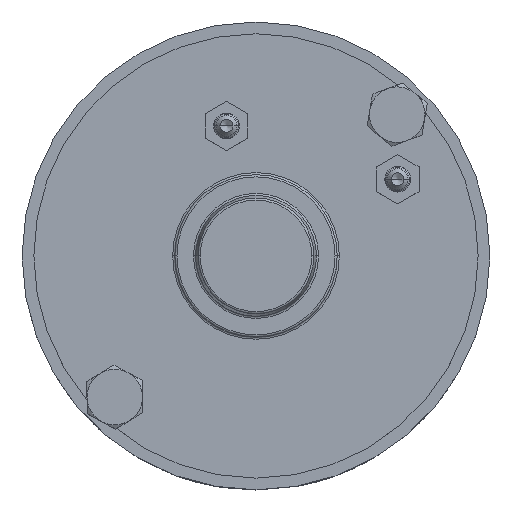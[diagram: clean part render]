
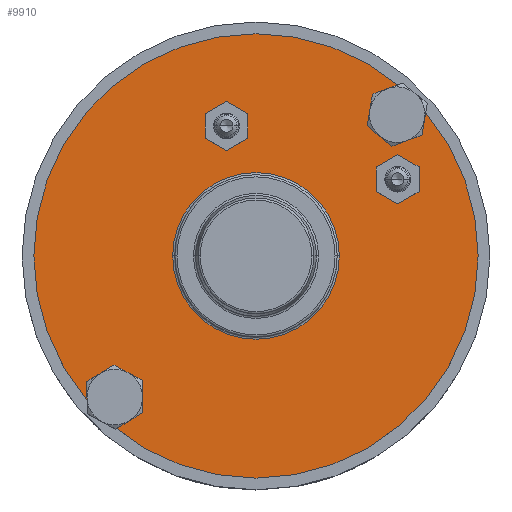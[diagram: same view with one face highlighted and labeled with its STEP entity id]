
A CAD part, top view. The second image highlights one B-rep face of the part: STEP entity #9910.
In plain terms, the highlighted planar face has unit normal (0, 0, 1).
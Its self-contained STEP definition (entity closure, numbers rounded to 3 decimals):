
#690 = EDGE_LOOP ( 'NONE', ( #38038, #37123 ) ) ;
#725 = CARTESIAN_POINT ( 'NONE',  ( 33.057, 33.057, 164.5 ) ) ;
#991 = EDGE_CURVE ( 'NONE', #3458, #30640, #27298, .T. ) ;
#1045 = DIRECTION ( 'NONE',  ( 1., 0., 0. ) ) ;
#1107 = CARTESIAN_POINT ( 'NONE',  ( -33.057, -33.057, 164.5 ) ) ;
#1561 = CARTESIAN_POINT ( 'NONE',  ( -35.807, -33.057, 164.5 ) ) ;
#3113 = CARTESIAN_POINT ( 'NONE',  ( -30.307, -33.057, 164.5 ) ) ;
#3458 = VERTEX_POINT ( 'NONE', #4721 ) ;
#3696 = CIRCLE ( 'NONE', #30399, 2.75 ) ;
#3883 = DIRECTION ( 'NONE',  ( 1., 0., 0. ) ) ;
#4221 = DIRECTION ( 'NONE',  ( -1., 0., 0. ) ) ;
#4553 = CARTESIAN_POINT ( 'NONE',  ( 19.5, 0., 164.5 ) ) ;
#4721 = CARTESIAN_POINT ( 'NONE',  ( -10.892, 30.406, 164.5 ) ) ;
#4879 = DIRECTION ( 'NONE',  ( 0., 0., 1. ) ) ;
#5115 = ORIENTED_EDGE ( 'NONE', *, *, #12794, .F. ) ;
#5210 = CIRCLE ( 'NONE', #39262, 19.5 ) ;
#5512 = EDGE_CURVE ( 'NONE', #36131, #5954, #31048, .T. ) ;
#5954 = VERTEX_POINT ( 'NONE', #30359 ) ;
#6628 = DIRECTION ( 'NONE',  ( 0., 0., 1. ) ) ;
#7194 = CARTESIAN_POINT ( 'NONE',  ( -6.892, 30.406, 164.5 ) ) ;
#7466 = CARTESIAN_POINT ( 'NONE',  ( 0., 0., 164.5 ) ) ;
#7655 = EDGE_CURVE ( 'NONE', #26773, #16235, #5210, .T. ) ;
#7764 = CARTESIAN_POINT ( 'NONE',  ( 30.307, 33.057, 164.5 ) ) ;
#8470 = FACE_OUTER_BOUND ( 'NONE', #32131, .T. ) ;
#9195 = CARTESIAN_POINT ( 'NONE',  ( 33.158, 17.926, 164.5 ) ) ;
#9525 = ORIENTED_EDGE ( 'NONE', *, *, #7655, .T. ) ;
#9910 = ADVANCED_FACE ( 'NONE', ( #25280, #10505, #34601, #33610, #16941, #8470 ), #35550, .T. ) ;
#10166 = CARTESIAN_POINT ( 'NONE',  ( 33.057, 33.057, 164.5 ) ) ;
#10224 = DIRECTION ( 'NONE',  ( 0., 0., 1. ) ) ;
#10414 = DIRECTION ( 'NONE',  ( 1., 0., 0. ) ) ;
#10505 = FACE_BOUND ( 'NONE', #690, .T. ) ;
#10646 = AXIS2_PLACEMENT_3D ( 'NONE', #16781, #19934, #1045 ) ;
#10673 = DIRECTION ( 'NONE',  ( 1., 0., 0. ) ) ;
#10993 = EDGE_CURVE ( 'NONE', #37207, #29059, #23145, .T. ) ;
#11373 = DIRECTION ( 'NONE',  ( 0., 0., -1. ) ) ;
#11711 = EDGE_LOOP ( 'NONE', ( #19254, #25969 ) ) ;
#11795 = CARTESIAN_POINT ( 'NONE',  ( 33.158, 17.926, 164.5 ) ) ;
#11940 = CARTESIAN_POINT ( 'NONE',  ( 29.158, 17.926, 164.5 ) ) ;
#12011 = AXIS2_PLACEMENT_3D ( 'NONE', #25560, #6628, #28703 ) ;
#12147 = CIRCLE ( 'NONE', #12011, 2.75 ) ;
#12248 = EDGE_CURVE ( 'NONE', #14757, #20912, #12147, .T. ) ;
#12383 = DIRECTION ( 'NONE',  ( 1., 0., 0. ) ) ;
#12556 = CIRCLE ( 'NONE', #19136, 4. ) ;
#12794 = EDGE_CURVE ( 'NONE', #29059, #37207, #15074, .T. ) ;
#13324 = DIRECTION ( 'NONE',  ( 1., 0., 0. ) ) ;
#13908 = CIRCLE ( 'NONE', #22518, 4. ) ;
#13942 = EDGE_CURVE ( 'NONE', #16235, #26773, #33219, .T. ) ;
#14757 = VERTEX_POINT ( 'NONE', #3113 ) ;
#14973 = DIRECTION ( 'NONE',  ( 1., 0., 0. ) ) ;
#15074 = CIRCLE ( 'NONE', #38613, 2.75 ) ;
#15689 = ORIENTED_EDGE ( 'NONE', *, *, #21476, .F. ) ;
#16235 = VERTEX_POINT ( 'NONE', #19288 ) ;
#16485 = CIRCLE ( 'NONE', #16753, 52. ) ;
#16753 = AXIS2_PLACEMENT_3D ( 'NONE', #36313, #17542, #39477 ) ;
#16781 = CARTESIAN_POINT ( 'NONE',  ( 0., 0., 164.5 ) ) ;
#16941 = FACE_BOUND ( 'NONE', #34641, .T. ) ;
#17542 = DIRECTION ( 'NONE',  ( 0., 0., 1. ) ) ;
#18228 = ORIENTED_EDGE ( 'NONE', *, *, #23582, .T. ) ;
#18319 = CARTESIAN_POINT ( 'NONE',  ( 52., 0., 164.5 ) ) ;
#19136 = AXIS2_PLACEMENT_3D ( 'NONE', #11795, #33799, #14973 ) ;
#19254 = ORIENTED_EDGE ( 'NONE', *, *, #22999, .F. ) ;
#19257 = ORIENTED_EDGE ( 'NONE', *, *, #39942, .T. ) ;
#19288 = CARTESIAN_POINT ( 'NONE',  ( -19.5, 0., 164.5 ) ) ;
#19539 = EDGE_LOOP ( 'NONE', ( #33511, #5115 ) ) ;
#19934 = DIRECTION ( 'NONE',  ( 0., 0., 1. ) ) ;
#20601 = CIRCLE ( 'NONE', #22417, 52. ) ;
#20912 = VERTEX_POINT ( 'NONE', #1561 ) ;
#21476 = EDGE_CURVE ( 'NONE', #20912, #14757, #3696, .T. ) ;
#21727 = EDGE_CURVE ( 'NONE', #5954, #36131, #12556, .T. ) ;
#21788 = CARTESIAN_POINT ( 'NONE',  ( 35.807, 33.057, 164.5 ) ) ;
#22417 = AXIS2_PLACEMENT_3D ( 'NONE', #29076, #10224, #32220 ) ;
#22431 = AXIS2_PLACEMENT_3D ( 'NONE', #23806, #4879, #26945 ) ;
#22518 = AXIS2_PLACEMENT_3D ( 'NONE', #7194, #29247, #10414 ) ;
#22786 = DIRECTION ( 'NONE',  ( 0., 0., 1. ) ) ;
#22999 = EDGE_CURVE ( 'NONE', #30640, #3458, #13908, .T. ) ;
#23145 = CIRCLE ( 'NONE', #30685, 2.75 ) ;
#23168 = DIRECTION ( 'NONE',  ( 0., 0., 1. ) ) ;
#23582 = EDGE_CURVE ( 'NONE', #27513, #32242, #16485, .T. ) ;
#23806 = CARTESIAN_POINT ( 'NONE',  ( -6.892, 30.406, 164.5 ) ) ;
#25280 = FACE_BOUND ( 'NONE', #11711, .T. ) ;
#25560 = CARTESIAN_POINT ( 'NONE',  ( -33.057, -33.057, 164.5 ) ) ;
#25844 = AXIS2_PLACEMENT_3D ( 'NONE', #9195, #31215, #12383 ) ;
#25969 = ORIENTED_EDGE ( 'NONE', *, *, #991, .F. ) ;
#26773 = VERTEX_POINT ( 'NONE', #4553 ) ;
#26945 = DIRECTION ( 'NONE',  ( 1., 0., 0. ) ) ;
#27298 = CIRCLE ( 'NONE', #22431, 4. ) ;
#27513 = VERTEX_POINT ( 'NONE', #18319 ) ;
#27694 = CARTESIAN_POINT ( 'NONE',  ( -52., 0., 164.5 ) ) ;
#28066 = ORIENTED_EDGE ( 'NONE', *, *, #12248, .F. ) ;
#28703 = DIRECTION ( 'NONE',  ( -1., 0., 0. ) ) ;
#29059 = VERTEX_POINT ( 'NONE', #7764 ) ;
#29076 = CARTESIAN_POINT ( 'NONE',  ( 0., 0., 164.5 ) ) ;
#29247 = DIRECTION ( 'NONE',  ( 0., 0., 1. ) ) ;
#29518 = DIRECTION ( 'NONE',  ( 0., 0., -1. ) ) ;
#30199 = CARTESIAN_POINT ( 'NONE',  ( 0., 0., 164.5 ) ) ;
#30359 = CARTESIAN_POINT ( 'NONE',  ( 37.158, 17.926, 164.5 ) ) ;
#30399 = AXIS2_PLACEMENT_3D ( 'NONE', #1107, #23168, #4221 ) ;
#30640 = VERTEX_POINT ( 'NONE', #35666 ) ;
#30685 = AXIS2_PLACEMENT_3D ( 'NONE', #10166, #32165, #13324 ) ;
#31048 = CIRCLE ( 'NONE', #25844, 4. ) ;
#31215 = DIRECTION ( 'NONE',  ( 0., 0., 1. ) ) ;
#32131 = EDGE_LOOP ( 'NONE', ( #19257, #18228 ) ) ;
#32165 = DIRECTION ( 'NONE',  ( 0., 0., 1. ) ) ;
#32220 = DIRECTION ( 'NONE',  ( 1., 0., 0. ) ) ;
#32242 = VERTEX_POINT ( 'NONE', #27694 ) ;
#33219 = CIRCLE ( 'NONE', #36779, 19.5 ) ;
#33369 = DIRECTION ( 'NONE',  ( 1., 0., 0. ) ) ;
#33511 = ORIENTED_EDGE ( 'NONE', *, *, #10993, .F. ) ;
#33610 = FACE_BOUND ( 'NONE', #19539, .T. ) ;
#33799 = DIRECTION ( 'NONE',  ( 0., 0., 1. ) ) ;
#34031 = EDGE_LOOP ( 'NONE', ( #28066, #15689 ) ) ;
#34601 = FACE_BOUND ( 'NONE', #34031, .T. ) ;
#34641 = EDGE_LOOP ( 'NONE', ( #9525, #38687 ) ) ;
#35550 = PLANE ( 'NONE',  #10646 ) ;
#35666 = CARTESIAN_POINT ( 'NONE',  ( -2.892, 30.406, 164.5 ) ) ;
#36131 = VERTEX_POINT ( 'NONE', #11940 ) ;
#36313 = CARTESIAN_POINT ( 'NONE',  ( 0., 0., 164.5 ) ) ;
#36779 = AXIS2_PLACEMENT_3D ( 'NONE', #7466, #29518, #10673 ) ;
#37123 = ORIENTED_EDGE ( 'NONE', *, *, #5512, .F. ) ;
#37207 = VERTEX_POINT ( 'NONE', #21788 ) ;
#38038 = ORIENTED_EDGE ( 'NONE', *, *, #21727, .F. ) ;
#38613 = AXIS2_PLACEMENT_3D ( 'NONE', #725, #22786, #3883 ) ;
#38687 = ORIENTED_EDGE ( 'NONE', *, *, #13942, .T. ) ;
#39262 = AXIS2_PLACEMENT_3D ( 'NONE', #30199, #11373, #33369 ) ;
#39477 = DIRECTION ( 'NONE',  ( 1., 0., 0. ) ) ;
#39942 = EDGE_CURVE ( 'NONE', #32242, #27513, #20601, .T. ) ;
